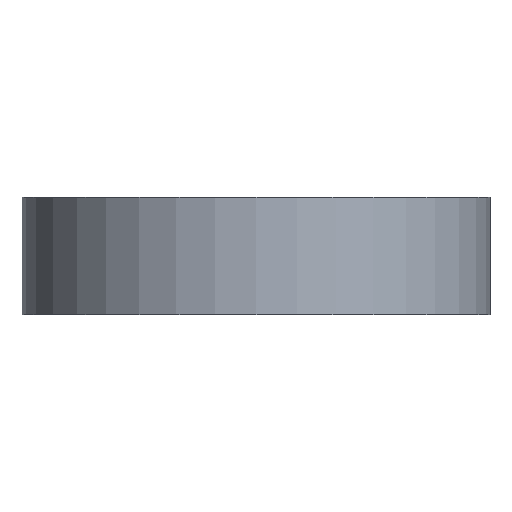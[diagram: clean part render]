
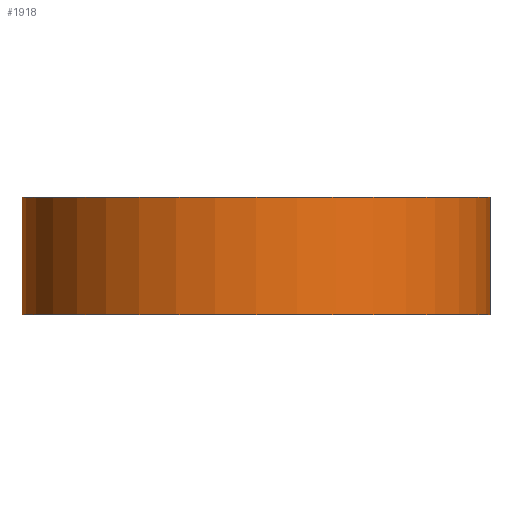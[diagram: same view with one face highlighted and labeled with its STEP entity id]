
A CAD part, front view. The second image highlights one B-rep face of the part: STEP entity #1918.
In plain terms, the highlighted cylindrical face has radius 42.495 mm (diameter 84.99 mm), a full revolution.
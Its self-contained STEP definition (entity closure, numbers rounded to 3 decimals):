
#184=FACE_OUTER_BOUND('',#310,.T.);
#310=EDGE_LOOP('',(#1732,#1733,#1734,#1735));
#411=LINE('',#3510,#506);
#506=VECTOR('',#2923,42.495);
#523=CIRCLE('',#1965,42.495);
#696=CIRCLE('',#2231,42.495);
#715=VERTEX_POINT('',#2987);
#886=VERTEX_POINT('',#3509);
#912=EDGE_CURVE('',#715,#715,#523,.T.);
#1170=EDGE_CURVE('',#715,#886,#411,.T.);
#1171=EDGE_CURVE('',#886,#886,#696,.T.);
#1732=ORIENTED_EDGE('',*,*,#912,.F.);
#1733=ORIENTED_EDGE('',*,*,#1170,.T.);
#1734=ORIENTED_EDGE('',*,*,#1171,.T.);
#1735=ORIENTED_EDGE('',*,*,#1170,.F.);
#1810=CYLINDRICAL_SURFACE('',#2230,42.495);
#1918=ADVANCED_FACE('',(#184),#1810,.T.);
#1965=AXIS2_PLACEMENT_3D('',#2988,#2306,#2307);
#2230=AXIS2_PLACEMENT_3D('',#3508,#2921,#2922);
#2231=AXIS2_PLACEMENT_3D('',#3511,#2924,#2925);
#2306=DIRECTION('center_axis',(0.,0.,1.));
#2307=DIRECTION('ref_axis',(1.,0.,0.));
#2921=DIRECTION('center_axis',(0.,0.,1.));
#2922=DIRECTION('ref_axis',(1.,0.,0.));
#2923=DIRECTION('',(0.,0.,-1.));
#2924=DIRECTION('center_axis',(0.,0.,1.));
#2925=DIRECTION('ref_axis',(1.,0.,0.));
#2987=CARTESIAN_POINT('',(-42.495,0.,21.27));
#2988=CARTESIAN_POINT('Origin',(0.,0.,21.27));
#3508=CARTESIAN_POINT('Origin',(0.,0.,0.));
#3509=CARTESIAN_POINT('',(-42.495,0.,0.));
#3510=CARTESIAN_POINT('',(-42.495,0.,0.));
#3511=CARTESIAN_POINT('Origin',(0.,0.,0.));
